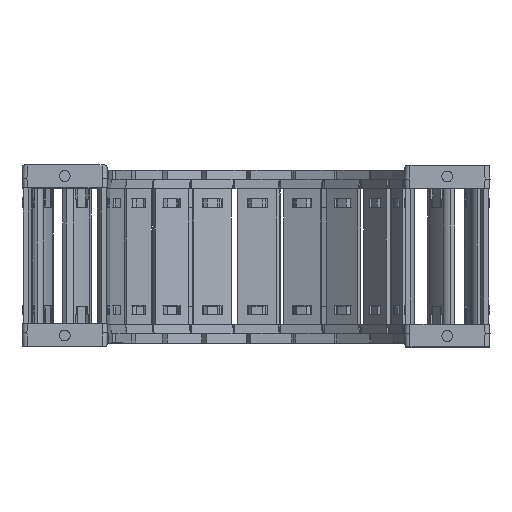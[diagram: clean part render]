
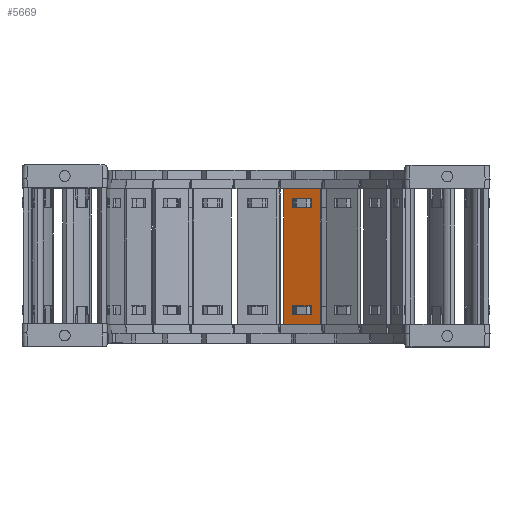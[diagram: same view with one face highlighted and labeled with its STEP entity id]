
A CAD part, top view. The second image highlights one B-rep face of the part: STEP entity #5669.
In plain terms, the highlighted planar face has unit normal (-0.342, 0, 0.94) as drawn and (0, 1, 0) by its records, which use the part's own axes.
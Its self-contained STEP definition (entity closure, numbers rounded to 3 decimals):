
#5089=DIRECTION('',(0.,0.,1.));
#5090=VECTOR('',#5089,15.8);
#5091=CARTESIAN_POINT('',(40.24,1.5,-7.9));
#5092=LINE('',#5091,#5090);
#5093=DIRECTION('',(-1.,0.,0.));
#5094=VECTOR('',#5093,55.);
#5095=CARTESIAN_POINT('',(40.24,1.5,7.9));
#5096=LINE('',#5095,#5094);
#5097=DIRECTION('',(0.,0.,-1.));
#5098=VECTOR('',#5097,15.8);
#5099=CARTESIAN_POINT('',(-14.76,1.5,7.9));
#5100=LINE('',#5099,#5098);
#5101=DIRECTION('',(1.,0.,0.));
#5102=VECTOR('',#5101,3.648);
#5103=CARTESIAN_POINT('',(32.622,1.5,4.075));
#5104=LINE('',#5103,#5102);
#5105=DIRECTION('',(0.,0.,-1.));
#5106=VECTOR('',#5105,8.15);
#5107=CARTESIAN_POINT('',(36.27,1.5,4.075));
#5108=LINE('',#5107,#5106);
#5109=DIRECTION('',(-1.,0.,0.));
#5110=VECTOR('',#5109,3.648);
#5111=CARTESIAN_POINT('',(36.27,1.5,-4.075));
#5112=LINE('',#5111,#5110);
#5113=DIRECTION('',(0.,0.,-1.));
#5114=VECTOR('',#5113,8.15);
#5115=CARTESIAN_POINT('',(-7.142,1.5,4.075));
#5116=LINE('',#5115,#5114);
#5117=DIRECTION('',(-1.,0.,0.));
#5118=VECTOR('',#5117,3.648);
#5119=CARTESIAN_POINT('',(-7.142,1.5,-4.075));
#5120=LINE('',#5119,#5118);
#5121=DIRECTION('',(0.,0.,1.));
#5122=VECTOR('',#5121,8.15);
#5123=CARTESIAN_POINT('',(-10.79,1.5,-4.075));
#5124=LINE('',#5123,#5122);
#5125=DIRECTION('',(1.,0.,0.));
#5126=VECTOR('',#5125,3.648);
#5127=CARTESIAN_POINT('',(-10.79,1.5,4.075));
#5128=LINE('',#5127,#5126);
#5133=DIRECTION('',(-1.,0.,0.));
#5134=VECTOR('',#5133,55.);
#5135=CARTESIAN_POINT('',(40.24,1.5,-7.9));
#5136=LINE('',#5135,#5134);
#5254=DIRECTION('',(0.,0.,-1.));
#5255=VECTOR('',#5254,8.15);
#5256=CARTESIAN_POINT('',(32.622,1.5,4.075));
#5257=LINE('',#5256,#5255);
#5439=CARTESIAN_POINT('',(36.27,1.5,4.075));
#5440=VERTEX_POINT('',#5439);
#5441=CARTESIAN_POINT('',(32.622,1.5,4.075));
#5442=VERTEX_POINT('',#5441);
#5483=CARTESIAN_POINT('',(32.622,1.5,-4.075));
#5484=VERTEX_POINT('',#5483);
#5485=CARTESIAN_POINT('',(36.27,1.5,-4.075));
#5486=VERTEX_POINT('',#5485);
#5487=CARTESIAN_POINT('',(40.24,1.5,7.9));
#5489=VERTEX_POINT('',#5487);
#5491=CARTESIAN_POINT('',(40.24,1.5,-7.9));
#5492=VERTEX_POINT('',#5491);
#5515=CARTESIAN_POINT('',(-7.142,1.5,4.075));
#5516=CARTESIAN_POINT('',(-7.142,1.5,-4.075));
#5517=VERTEX_POINT('',#5515);
#5518=VERTEX_POINT('',#5516);
#5519=CARTESIAN_POINT('',(-10.79,1.5,-4.075));
#5520=VERTEX_POINT('',#5519);
#5521=CARTESIAN_POINT('',(-10.79,1.5,4.075));
#5522=VERTEX_POINT('',#5521);
#5523=CARTESIAN_POINT('',(-14.76,1.5,7.9));
#5524=VERTEX_POINT('',#5523);
#5527=CARTESIAN_POINT('',(-14.76,1.5,-7.9));
#5528=VERTEX_POINT('',#5527);
#5638=CARTESIAN_POINT('',(71.98,1.5,10.061));
#5639=DIRECTION('',(0.,-1.,0.));
#5640=DIRECTION('',(0.,0.,-1.));
#5641=AXIS2_PLACEMENT_3D('',#5638,#5639,#5640);
#5642=PLANE('',#5641);
#5643=ORIENTED_EDGE('',*,*,#5577,.T.);
#5644=ORIENTED_EDGE('',*,*,#5603,.T.);
#5645=ORIENTED_EDGE('',*,*,#5616,.T.);
#5647=ORIENTED_EDGE('',*,*,#5646,.F.);
#5648=EDGE_LOOP('',(#5643,#5644,#5645,#5647));
#5649=FACE_OUTER_BOUND('',#5648,.F.);
#5651=ORIENTED_EDGE('',*,*,#5650,.F.);
#5652=ORIENTED_EDGE('',*,*,#5540,.T.);
#5654=ORIENTED_EDGE('',*,*,#5653,.T.);
#5656=ORIENTED_EDGE('',*,*,#5655,.T.);
#5657=EDGE_LOOP('',(#5651,#5652,#5654,#5656));
#5658=FACE_BOUND('',#5657,.F.);
#5660=ORIENTED_EDGE('',*,*,#5659,.T.);
#5662=ORIENTED_EDGE('',*,*,#5661,.T.);
#5664=ORIENTED_EDGE('',*,*,#5663,.T.);
#5666=ORIENTED_EDGE('',*,*,#5665,.T.);
#5667=EDGE_LOOP('',(#5660,#5662,#5664,#5666));
#5668=FACE_BOUND('',#5667,.F.);
#5669=ADVANCED_FACE('',(#5649,#5658,#5668),#5642,.F.);
#5540=EDGE_CURVE('',#5442,#5440,#5104,.T.);
#5577=EDGE_CURVE('',#5492,#5489,#5092,.T.);
#5603=EDGE_CURVE('',#5489,#5524,#5096,.T.);
#5616=EDGE_CURVE('',#5524,#5528,#5100,.T.);
#5646=EDGE_CURVE('',#5492,#5528,#5136,.T.);
#5650=EDGE_CURVE('',#5442,#5484,#5257,.T.);
#5653=EDGE_CURVE('',#5440,#5486,#5108,.T.);
#5655=EDGE_CURVE('',#5486,#5484,#5112,.T.);
#5659=EDGE_CURVE('',#5517,#5518,#5116,.T.);
#5661=EDGE_CURVE('',#5518,#5520,#5120,.T.);
#5663=EDGE_CURVE('',#5520,#5522,#5124,.T.);
#5665=EDGE_CURVE('',#5522,#5517,#5128,.T.);
